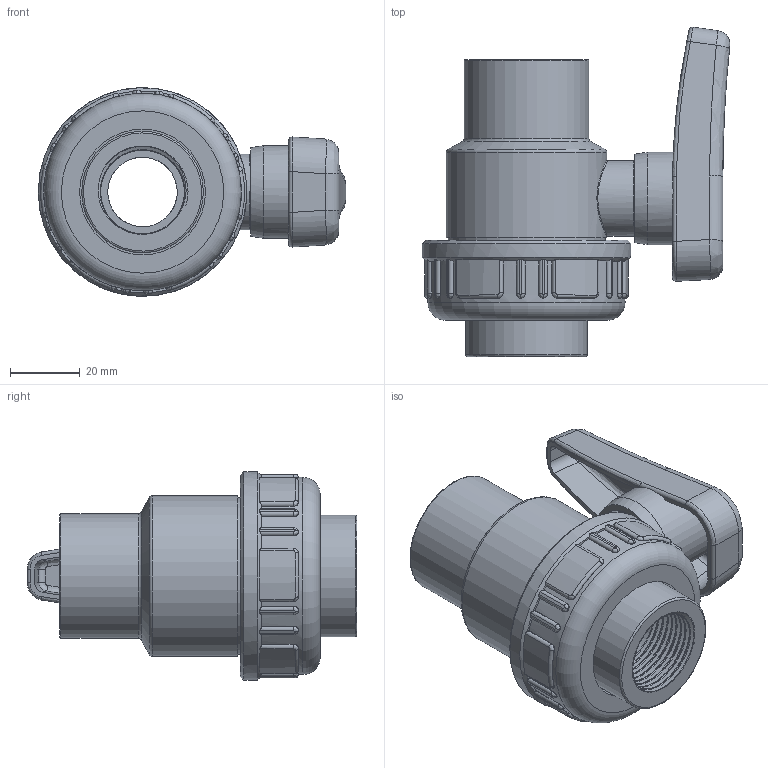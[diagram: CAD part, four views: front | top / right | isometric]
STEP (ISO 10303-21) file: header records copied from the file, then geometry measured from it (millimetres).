
FILE_DESCRIPTION(/* description */ (''),/* implementation_level */ '2;1');
FILE_NAME(/* name */ 'C:\Users\POLYPIPE\Desktop\DATASET INVENTOR\LIBRERIA EFFAST\3D_VALVOLE\3D_VALVOLE A SFERA\3D_SV\3D_BERSVE\3D_BERSVE025C.stp',/* time_stamp */ '2018-01-24T14:49:06+01:00',/* author */ ('POLYPIPE'),/* organization */ (''),/* preprocessor_version */ 'ST-DEVELOPER v16.1',/* originating_system */ 'Autodesk Inventor 2016',/* authorisation */ '');
FILE_SCHEMA (('CONFIG_CONTROL_DESIGN'));
Length unit declared in the file: centimetre
Products named in the file (1): 3D_BERSVE025C
Bounding box: 88.46 x 94.77 x 60 mm (x, y, z)
Volume: 120140.7 mm3; surface area: 40933.5 mm2
Topology: 1 solids, 1 shells, 357 faces, 916 edges, 566 vertices
Faces by surface type: cylinder 113, bspline 109, plane 104, torus 19, sphere 8, cone 4
Full cylindrical faces by diameter (mm): 13.9 x1, 20 x1, 21.8 x1, 24.117 x2, 26.6 x1, 35 x1, 35.8 x1, 36.2 x1, 43 x1, 45.15 x1, 46.15 x1, 48.3 x1, 56.7 x1, 60 x1
Entity records: 40289 total; most frequent: CARTESIAN_POINT 31906, ORIENTED_EDGE 1764, DIRECTION 1493, EDGE_CURVE 882, AXIS2_PLACEMENT_3D 588, VERTEX_POINT 556, EDGE_LOOP 394, STYLED_ITEM 358
